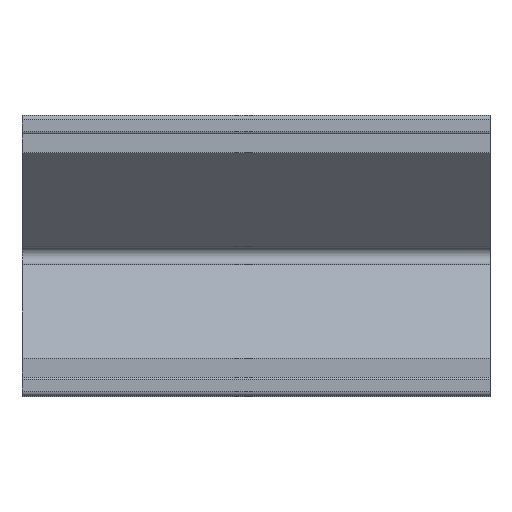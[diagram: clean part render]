
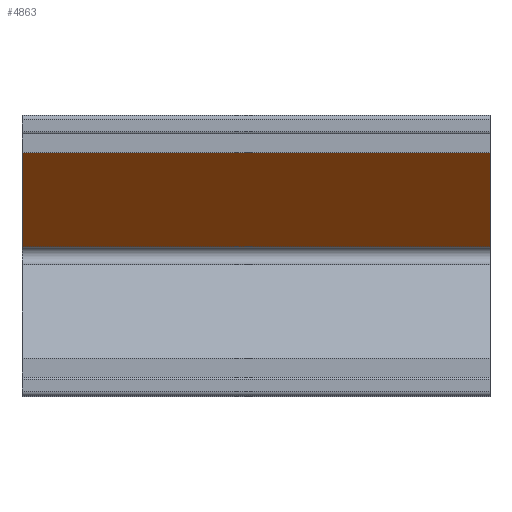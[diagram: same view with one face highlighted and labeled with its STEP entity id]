
A CAD part, top view. The second image highlights one B-rep face of the part: STEP entity #4863.
In plain terms, the highlighted planar face has unit normal (0, -0.707, 0.707).
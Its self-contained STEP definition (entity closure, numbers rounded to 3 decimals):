
#82 = DIRECTION ( 'NONE',  ( 0., 0.707, -0.707 ) ) ;
#361 = ORIENTED_EDGE ( 'NONE', *, *, #5846, .F. ) ;
#419 = AXIS2_PLACEMENT_3D ( 'NONE', #2978, #82, #4379 ) ;
#501 = VERTEX_POINT ( 'NONE', #546 ) ;
#546 = CARTESIAN_POINT ( 'NONE',  ( 59.184, 56.798, 41.9 ) ) ;
#805 = ORIENTED_EDGE ( 'NONE', *, *, #2262, .T. ) ;
#1396 = CARTESIAN_POINT ( 'NONE',  ( -40.816, 76.898, 62. ) ) ;
#1476 = DIRECTION ( 'NONE',  ( 0., -0.707, -0.707 ) ) ;
#1492 = CARTESIAN_POINT ( 'NONE',  ( 59.184, 76.898, 62. ) ) ;
#2142 = CARTESIAN_POINT ( 'NONE',  ( 59.184, 56.798, 41.9 ) ) ;
#2168 = EDGE_CURVE ( 'NONE', #5404, #4003, #4094, .T. ) ;
#2262 = EDGE_CURVE ( 'NONE', #4003, #5193, #4993, .T. ) ;
#2572 = CARTESIAN_POINT ( 'NONE',  ( -40.816, 56.798, 41.9 ) ) ;
#2853 = VECTOR ( 'NONE', #4997, 1000. ) ;
#2925 = PLANE ( 'NONE',  #419 ) ;
#2978 = CARTESIAN_POINT ( 'NONE',  ( 59.184, 76.898, 62. ) ) ;
#3047 = ORIENTED_EDGE ( 'NONE', *, *, #5150, .F. ) ;
#3140 = CARTESIAN_POINT ( 'NONE',  ( 59.184, 76.898, 62. ) ) ;
#3170 = CARTESIAN_POINT ( 'NONE',  ( 59.184, 76.898, 62. ) ) ;
#3190 = VECTOR ( 'NONE', #4140, 1000. ) ;
#3228 = FACE_OUTER_BOUND ( 'NONE', #3690, .T. ) ;
#3690 = EDGE_LOOP ( 'NONE', ( #805, #361, #3047, #4324 ) ) ;
#3859 = VECTOR ( 'NONE', #6129, 1000. ) ;
#4003 = VERTEX_POINT ( 'NONE', #5683 ) ;
#4094 = LINE ( 'NONE', #3140, #3190 ) ;
#4140 = DIRECTION ( 'NONE',  ( -1., 0., 0. ) ) ;
#4324 = ORIENTED_EDGE ( 'NONE', *, *, #2168, .T. ) ;
#4379 = DIRECTION ( 'NONE',  ( 0., 0.707, 0.707 ) ) ;
#4437 = LINE ( 'NONE', #2142, #2853 ) ;
#4597 = VECTOR ( 'NONE', #1476, 1000. ) ;
#4863 = ADVANCED_FACE ( 'NONE', ( #3228 ), #2925, .F. ) ;
#4993 = LINE ( 'NONE', #1396, #3859 ) ;
#4997 = DIRECTION ( 'NONE',  ( -1., 0., 0. ) ) ;
#5150 = EDGE_CURVE ( 'NONE', #5404, #501, #5885, .T. ) ;
#5193 = VERTEX_POINT ( 'NONE', #2572 ) ;
#5404 = VERTEX_POINT ( 'NONE', #3170 ) ;
#5683 = CARTESIAN_POINT ( 'NONE',  ( -40.816, 76.898, 62. ) ) ;
#5846 = EDGE_CURVE ( 'NONE', #501, #5193, #4437, .T. ) ;
#5885 = LINE ( 'NONE', #1492, #4597 ) ;
#6129 = DIRECTION ( 'NONE',  ( 0., -0.707, -0.707 ) ) ;
